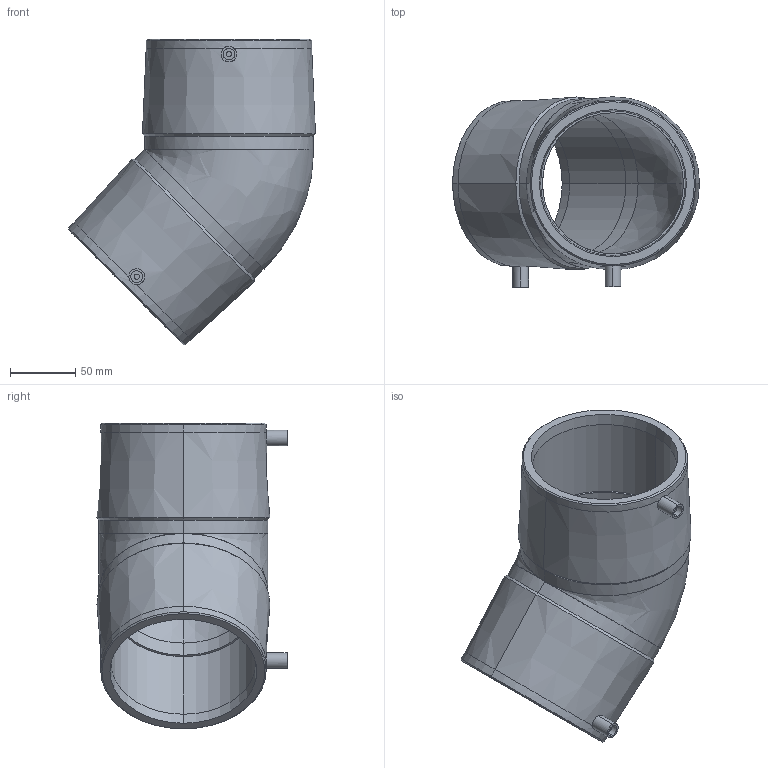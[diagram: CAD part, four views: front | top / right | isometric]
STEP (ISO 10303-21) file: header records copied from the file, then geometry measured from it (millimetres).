
FILE_DESCRIPTION (( 'STEP AP203' ), '1' );
FILE_NAME ('KP_24-110.step', '2011-08-08T11:39:10', ( '' ), ( '' ), 'SwSTEP 2.0', 'SolidWorks 2011', '' );
FILE_SCHEMA (( 'CONFIG_CONTROL_DESIGN' ));
Length unit declared in the file: millimetre
Products named in the file (1): KP_24-110
Bounding box: 189.4 x 145.86 x 234.54 mm (x, y, z)
Volume: 808617.3 mm3; surface area: 174792.5 mm2
Topology: 1 solids, 1 shells, 62 faces, 136 edges, 82 vertices
Faces by surface type: cylinder 28, cone 16, plane 14, bspline 4
Entity records: 2230 total; most frequent: CARTESIAN_POINT 770, DIRECTION 314, ORIENTED_EDGE 272, EDGE_CURVE 136, AXIS2_PLACEMENT_3D 135, VERTEX_POINT 82, CIRCLE 76, EDGE_LOOP 70
